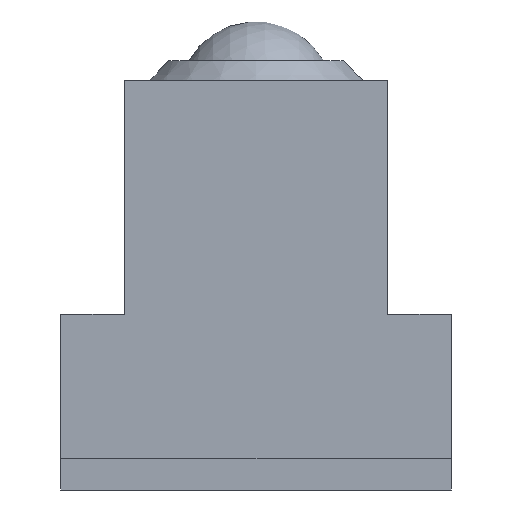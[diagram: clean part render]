
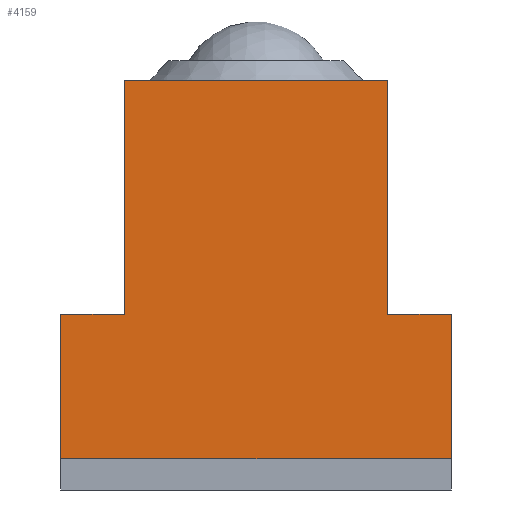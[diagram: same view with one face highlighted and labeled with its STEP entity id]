
A CAD part, left-side view. The second image highlights one B-rep face of the part: STEP entity #4159.
In plain terms, the highlighted planar face has unit normal (-1, 0, 0) as drawn and (0, 0, -1) by its records, which use the part's own axes.
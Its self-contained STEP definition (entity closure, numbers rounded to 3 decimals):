
#358=LINE('',#6590,#560);
#362=LINE('',#6597,#564);
#363=LINE('',#6601,#565);
#367=LINE('',#6608,#569);
#371=LINE('',#6615,#573);
#372=LINE('',#6618,#574);
#375=LINE('',#6624,#577);
#378=LINE('',#6629,#580);
#560=VECTOR('',#5289,24.);
#564=VECTOR('',#5295,27.);
#565=VECTOR('',#5298,14.8);
#569=VECTOR('',#5304,6.5);
#573=VECTOR('',#5310,24.);
#574=VECTOR('',#5313,6.5);
#577=VECTOR('',#5318,14.8);
#580=VECTOR('',#5323,40.);
#759=PLANE('',#4531);
#1245=FACE_OUTER_BOUND('',#1635,.T.);
#1635=EDGE_LOOP('',(#3306,#3307,#3308,#3309,#3310,#3311,#3312,#3313));
#2284=VERTEX_POINT('',#6587);
#2285=VERTEX_POINT('',#6589);
#2287=VERTEX_POINT('',#6595);
#2288=VERTEX_POINT('',#6599);
#2289=VERTEX_POINT('',#6600);
#2293=VERTEX_POINT('',#6613);
#2294=VERTEX_POINT('',#6617);
#2296=VERTEX_POINT('',#6623);
#2676=EDGE_CURVE('',#2284,#2285,#358,.T.);
#2680=EDGE_CURVE('',#2287,#2284,#362,.T.);
#2681=EDGE_CURVE('',#2288,#2289,#363,.T.);
#2685=EDGE_CURVE('',#2285,#2288,#367,.T.);
#2689=EDGE_CURVE('',#2293,#2287,#371,.T.);
#2690=EDGE_CURVE('',#2294,#2293,#372,.T.);
#2693=EDGE_CURVE('',#2296,#2294,#375,.T.);
#2696=EDGE_CURVE('',#2289,#2296,#378,.T.);
#3306=ORIENTED_EDGE('',*,*,#2696,.F.);
#3307=ORIENTED_EDGE('',*,*,#2681,.F.);
#3308=ORIENTED_EDGE('',*,*,#2685,.F.);
#3309=ORIENTED_EDGE('',*,*,#2676,.F.);
#3310=ORIENTED_EDGE('',*,*,#2680,.F.);
#3311=ORIENTED_EDGE('',*,*,#2689,.F.);
#3312=ORIENTED_EDGE('',*,*,#2690,.F.);
#3313=ORIENTED_EDGE('',*,*,#2693,.F.);
#4159=ADVANCED_FACE('',(#1245),#759,.F.);
#4531=AXIS2_PLACEMENT_3D('',#6632,#5327,#5328);
#5289=DIRECTION('',(0.,-1.,0.));
#5295=DIRECTION('',(-1.,0.,0.));
#5298=DIRECTION('',(0.,-1.,0.));
#5304=DIRECTION('',(-1.,0.,0.));
#5310=DIRECTION('',(0.,1.,0.));
#5313=DIRECTION('',(-1.,0.,0.));
#5318=DIRECTION('',(0.,1.,0.));
#5323=DIRECTION('',(1.,0.,0.));
#5327=DIRECTION('center_axis',(0.,0.,1.));
#5328=DIRECTION('ref_axis',(1.,0.,0.));
#6587=CARTESIAN_POINT('',(-13.5,38.8,0.));
#6589=CARTESIAN_POINT('',(-13.5,14.8,0.));
#6590=CARTESIAN_POINT('',(-13.5,38.8,0.));
#6595=CARTESIAN_POINT('',(13.5,38.8,0.));
#6597=CARTESIAN_POINT('',(13.5,38.8,0.));
#6599=CARTESIAN_POINT('',(-20.,14.8,0.));
#6600=CARTESIAN_POINT('',(-20.,0.,0.));
#6601=CARTESIAN_POINT('',(-20.,14.8,0.));
#6608=CARTESIAN_POINT('',(-13.5,14.8,0.));
#6613=CARTESIAN_POINT('',(13.5,14.8,0.));
#6615=CARTESIAN_POINT('',(13.5,14.8,0.));
#6617=CARTESIAN_POINT('',(20.,14.8,0.));
#6618=CARTESIAN_POINT('',(20.,14.8,0.));
#6623=CARTESIAN_POINT('',(20.,0.,0.));
#6624=CARTESIAN_POINT('',(20.,0.,0.));
#6629=CARTESIAN_POINT('',(-20.,0.,0.));
#6632=CARTESIAN_POINT('Origin',(0.,17.42,
0.));
